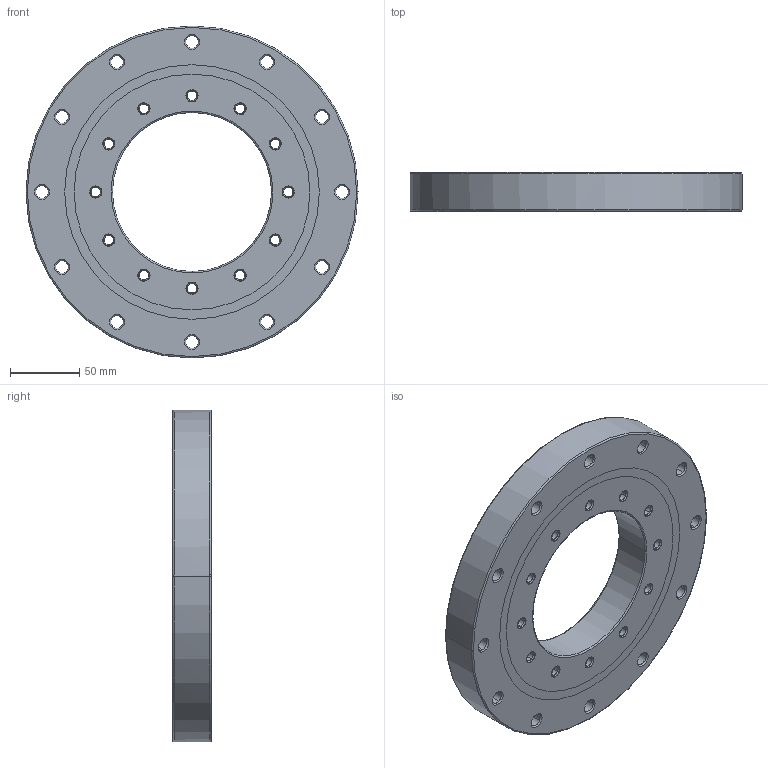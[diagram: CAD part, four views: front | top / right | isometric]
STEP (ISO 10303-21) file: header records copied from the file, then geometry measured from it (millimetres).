
FILE_DESCRIPTION(('no description'),'unknown implementation level');
FILE_NAME('CRBE11528A_60.stp',' ',('HIWIN GmbH'),('CADClick - KiM GmbH - www.kimweb.de'),'unknown preprocess','ACIS','unknown authorization');
FILE_SCHEMA(('automotive_design'));
Length unit declared in the file: millimetre
Products named in the file (28): CRBE11528A_1; CRBE11528A_2; CRBE11528A_3; CRBE11528A_4; CRBE11528A_5; CRBE11528A_6; CRBE11528A_7; CRBE11528A_8; CRBE11528A_9; CRBE11528A_10; CRBE11528A_11; CRBE11528A_12; CRBE11528A_13; CRBE11528A_14; CRBE11528A_15; CRBE11528A_16; CRBE11528A_17; CRBE11528A_18; CRBE11528A_19; CRBE11528A_20; CRBE11528A_21; CRBE11528A_22; CRBE11528A_23; CRBE11528A_24; CRBE11528A_25; CRBE11528A_26; CRBE11528A_27; CRBE11528A
Bounding box: 240 x 28 x 240 mm (x, y, z)
Volume: 835587.9 mm3; surface area: 165214.1 mm2
Topology: 4 solids, 28 shells, 324 faces, 832 edges, 552 vertices
Faces by surface type: cone 176, cylinder 112, plane 20, torus 16
Entity records: 19394 total; most frequent: DIRECTION 2056, CARTESIAN_POINT 1736, ORIENTED_EDGE 1568, STYLED_ITEM 1544, PRESENTATION_STYLE_ASSIGNMENT 1544, COLOUR_RGB 1544, AXIS2_PLACEMENT_3D 872, EDGE_CURVE 832
